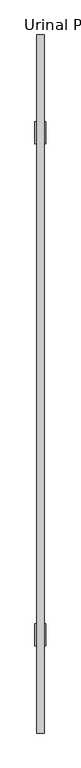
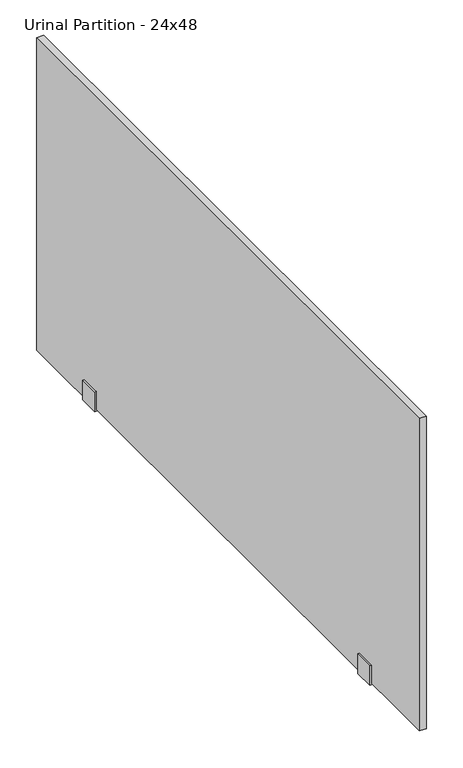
"""IFC4 building model written with IfcOpenShell, lengths in millimetres: proxy geometry, Urinal-Partition_Ironwood-Mfg : Urinal Partition - 24x48."""

from ifc_helpers import new_model, si_unit, frame, origin, place, context, project, spatial, polyline, outline, extrude, source, transform, mapped, element, save


def urinal_partition_24x48_a16d5c53(model_context):
    return source(origin(), model_context, "Body", "SweptSolid", [
        extrude(outline(polyline([(38.1, 6.35), (3.175, 6.35), (3.175, -6.35), (38.1, -6.35), (38.1, -9.525), (0.0, -9.525), (0.0, 9.525), (38.1, 9.525), (38.1, 6.35)])), frame((0.0, 1333.5, 0.0), z_axis=(0.0, 1.0, 0.0), x_axis=(0.0, 0.0, 1.0)), (0.0, 0.0, 1.0), 38.1),
        extrude(outline(polyline([(38.1, 6.35), (3.175, 6.35), (3.175, -6.35), (38.1, -6.35), (38.1, -9.525), (0.0, -9.525), (0.0, 9.525), (38.1, 9.525), (38.1, 6.35)])), frame((0.0, 457.2, 0.0), z_axis=(0.0, 1.0, 0.0), x_axis=(0.0, 0.0, 1.0)), (0.0, 0.0, 1.0), 38.1),
        extrude(outline(polyline([(-6.35, 304.8), (-6.35, 1523.1614427), (6.35, 1523.1614427), (6.35, 304.8), (-6.35, 304.8)])), frame((0.0, 0.0, 3.175), z_axis=(0.0, 0.0, 1.0), x_axis=(1.0, 0.0, 0.0)), (0.0, 0.0, 1.0), 606.425),
    ])


if __name__ == "__main__":
    model = new_model("IFC4")
    model_context = context("Model", 3, world=origin())
    ifc_project = project(units=[si_unit("LENGTHUNIT", "METRE", prefix="MILLI")], contexts=[model_context])
    site = spatial("IfcSite", under=ifc_project)
    building = spatial("IfcBuilding", under=site)
    placement = place(None, origin())
    urinal_partition_24x48_shape = urinal_partition_24x48_a16d5c53(model_context)
    element("IfcBuildingElementProxy", 1, Name="Urinal-Partition_Ironwood-Mfg : Urinal Partition - 24x48", ObjectType="Urinal-Partition_Ironwood-Mfg : Urinal Partition - 24x48", at=placement, inside=building, context=model_context, shape_type="MappedRepresentation", body=[
        mapped(urinal_partition_24x48_shape, transform((0.0, 0.0, 0.0), x_axis=(1.0, 0.0, 0.0), y_axis=(0.0, 1.0, 0.0), z_axis=(0.0, 0.0, 1.0))),
    ])
    save(model, "model.ifc")
